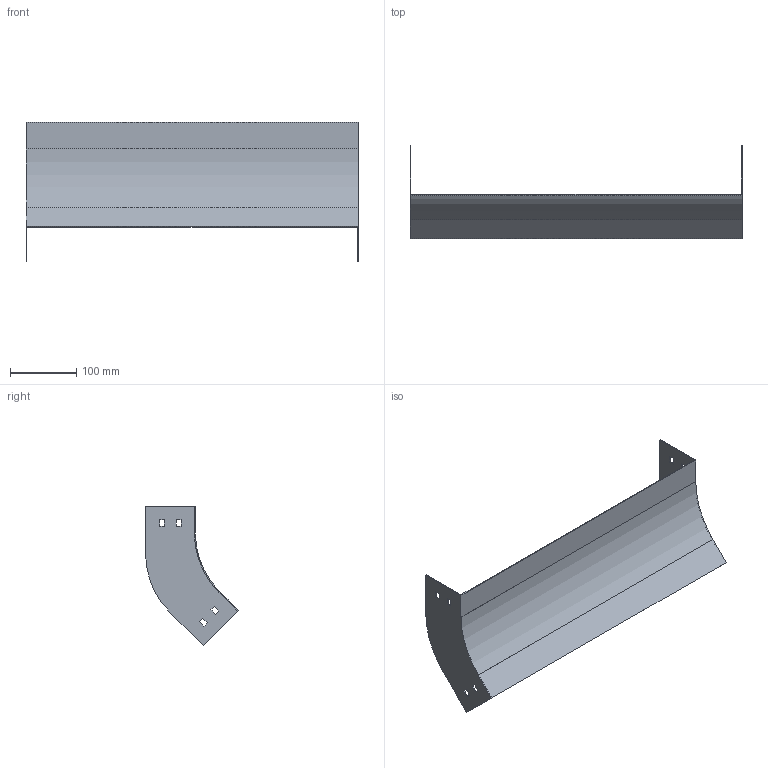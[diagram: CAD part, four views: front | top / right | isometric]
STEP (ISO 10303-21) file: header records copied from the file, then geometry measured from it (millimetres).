
FILE_DESCRIPTION (( 'STEP AP214' ), '1' );
FILE_NAME ('D4_507.step', '2025-07-16T09:07:50', ( '' ), ( '' ), 'SwSTEP 2.0', 'SolidWorks 2023', '' );
FILE_SCHEMA (( 'AUTOMOTIVE_DESIGN' ));
Length unit declared in the file: millimetre
Products named in the file (1): D4_507
Bounding box: 500 x 139.9 x 209.71 mm (x, y, z)
Volume: 180717.8 mm3; surface area: 244025.2 mm2
Topology: 1 solids, 1 shells, 50 faces, 144 edges, 96 vertices
Faces by surface type: plane 46, cylinder 4
Entity records: 1671 total; most frequent: CARTESIAN_POINT 291, ORIENTED_EDGE 288, DIRECTION 254, EDGE_CURVE 144, LINE 136, VECTOR 136, VERTEX_POINT 96, EDGE_LOOP 66
